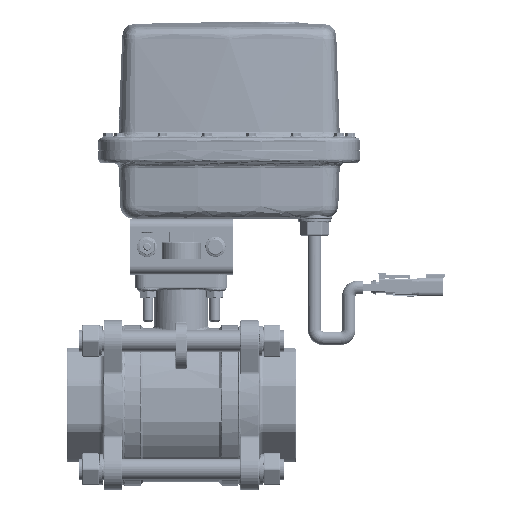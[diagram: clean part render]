
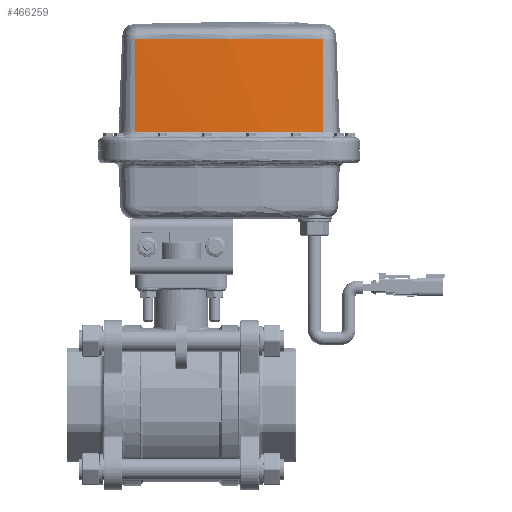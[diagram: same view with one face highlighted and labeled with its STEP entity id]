
A CAD part, top view. The second image highlights one B-rep face of the part: STEP entity #466259.
In plain terms, the highlighted conical face has half-angle 2 degrees and reference radius 507.539 mm.
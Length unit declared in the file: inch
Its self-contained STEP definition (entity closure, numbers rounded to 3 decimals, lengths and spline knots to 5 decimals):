
#941 = B_SPLINE_CURVE_WITH_KNOTS ( 'NONE', 3,
 ( #501819, #168830, #64350, #66744, #448373, #171252, #120156, #509007, #564817, #280590, #559967, #450806, #117756, #506622, #674093, #231873, #341384, #8321 ),
 .UNSPECIFIED., .F., .F.,
 ( 4, 2, 2, 1, 1, 1, 1, 1, 1, 2, 2, 4 ),
 ( 0., 0.25, 0.375, 0.4375, 0.46875, 0.48437, 0.49219, 0.49609, 0.49805, 0.49902, 0.5, 1. ),
 .UNSPECIFIED. ) ;
#8321 = CARTESIAN_POINT ( 'NONE',  ( -1.34376, 5.03864, 1.69672 ) ) ;
#29778 = B_SPLINE_CURVE_WITH_KNOTS ( 'NONE', 3,
 ( #179948, #464253, #388959, #235823 ),
 .UNSPECIFIED., .F., .F.,
 ( 4, 4 ),
 ( 0., 1. ),
 .UNSPECIFIED. ) ;
#34826 = EDGE_CURVE ( 'NONE', #562201, #137427, #666996, .T. ) ;
#34936 = CARTESIAN_POINT ( 'NONE',  ( 4.15686, 2.31977, 1.79076 ) ) ;
#47818 = DIRECTION ( 'NONE',  ( 0.138, 0., 0.99 ) ) ;
#49633 = CONICAL_SURFACE ( 'NONE', #312350, 19.98185, 0.035 ) ;
#49858 = CARTESIAN_POINT ( 'NONE',  ( 3.90338, 5.03769, 1.73024 ) ) ;
#64350 = CARTESIAN_POINT ( 'NONE',  ( 0.94605, 5.0481, 1.88272 ) ) ;
#66744 = CARTESIAN_POINT ( 'NONE',  ( 0.60216, 5.04414, 1.87103 ) ) ;
#93187 = CARTESIAN_POINT ( 'NONE',  ( 4.14376, 5.03864, 1.69672 ) ) ;
#108055 = CARTESIAN_POINT ( 'NONE',  ( 2.78115, 5.03947, 1.83886 ) ) ;
#112379 = ORIENTED_EDGE ( 'NONE', *, *, #703809, .F. ) ;
#117756 = CARTESIAN_POINT ( 'NONE',  ( 0.02838, 5.03952, 1.83952 ) ) ;
#120156 = CARTESIAN_POINT ( 'NONE',  ( 0.2275, 5.04081, 1.85238 ) ) ;
#137427 = VERTEX_POINT ( 'NONE', #652477 ) ;
#166358 = CARTESIAN_POINT ( 'NONE',  ( 3.669, 5.03729, 1.75842 ) ) ;
#168830 = CARTESIAN_POINT ( 'NONE',  ( 1.17383, 5.0514, 1.88646 ) ) ;
#171252 = CARTESIAN_POINT ( 'NONE',  ( 0.31414, 5.04149, 1.85722 ) ) ;
#179948 = CARTESIAN_POINT ( 'NONE',  ( -1.35686, 2.31977, 1.79076 ) ) ;
#212943 = CARTESIAN_POINT ( 'NONE',  ( -1.34376, 5.03864, 1.69672 ) ) ;
#231873 = CARTESIAN_POINT ( 'NONE',  ( -0.40627, 5.03703, 1.80947 ) ) ;
#235823 = CARTESIAN_POINT ( 'NONE',  ( -1.34376, 5.03864, 1.69672 ) ) ;
#251300 = CARTESIAN_POINT ( 'NONE',  ( 4.14376, 5.03864, 1.69672 ) ) ;
#268507 = CARTESIAN_POINT ( 'NONE',  ( 2.78704, 5.03943, 1.83845 ) ) ;
#270936 = CARTESIAN_POINT ( 'NONE',  ( 4.14376, 5.03864, 1.69672 ) ) ;
#271264 = DIRECTION ( 'NONE',  ( 0., 1., 0. ) ) ;
#273293 = CARTESIAN_POINT ( 'NONE',  ( 2.77694, 5.03949, 1.83915 ) ) ;
#275689 = CARTESIAN_POINT ( 'NONE',  ( 2.79885, 5.03937, 1.83762 ) ) ;
#278100 = CARTESIAN_POINT ( 'NONE',  ( 2.96522, 5.03854, 1.82535 ) ) ;
#280590 = CARTESIAN_POINT ( 'NONE',  ( 0.05013, 5.03965, 1.84101 ) ) ;
#288786 = EDGE_LOOP ( 'NONE', ( #112379, #643658, #455567, #468254, #605166 ) ) ;
#306808 = AXIS2_PLACEMENT_3D ( 'NONE', #599406, #271264, #47818 ) ;
#307578 = VERTEX_POINT ( 'NONE', #496028 ) ;
#312350 = AXIS2_PLACEMENT_3D ( 'NONE', #710292, #331293, #498986 ) ;
#324496 = CARTESIAN_POINT ( 'NONE',  ( 2.77616, 5.03949, 1.8392 ) ) ;
#326850 = CARTESIAN_POINT ( 'NONE',  ( 3.32676, 5.0375, 1.79372 ) ) ;
#331293 = DIRECTION ( 'NONE',  ( 0., -1., 0. ) ) ;
#334053 = CARTESIAN_POINT ( 'NONE',  ( 2.77862, 5.03948, 1.83903 ) ) ;
#341384 = CARTESIAN_POINT ( 'NONE',  ( -0.863, 5.03674, 1.76376 ) ) ;
#385173 = VERTEX_POINT ( 'NONE', #537070 ) ;
#387615 = CARTESIAN_POINT ( 'NONE',  ( 1.85235, 5.04744, 1.8866 ) ) ;
#388959 = CARTESIAN_POINT ( 'NONE',  ( -1.34813, 4.13235, 1.72806 ) ) ;
#412070 = CIRCLE ( 'NONE', #306808, 19.98185 ) ;
#423757 = CARTESIAN_POINT ( 'NONE',  ( 4.14813, 4.13235, 1.72806 ) ) ;
#426141 = CARTESIAN_POINT ( 'NONE',  ( 4.1525, 3.22606, 1.75941 ) ) ;
#441076 = CARTESIAN_POINT ( 'NONE',  ( 3.21424, 5.03771, 1.80432 ) ) ;
#445937 = CARTESIAN_POINT ( 'NONE',  ( 1.4, 5.05536, 1.88632 ) ) ;
#448373 = CARTESIAN_POINT ( 'NONE',  ( 0.48716, 5.04298, 1.86613 ) ) ;
#450664 = B_SPLINE_CURVE_WITH_KNOTS ( 'NONE', 3,
 ( #34936, #426141, #423757, #93187 ),
 .UNSPECIFIED., .F., .F.,
 ( 4, 4 ),
 ( 0., 1. ),
 .UNSPECIFIED. ) ;
#450806 = CARTESIAN_POINT ( 'NONE',  ( 0.03109, 5.03954, 1.8397 ) ) ;
#455567 = ORIENTED_EDGE ( 'NONE', *, *, #612278, .T. ) ;
#464253 = CARTESIAN_POINT ( 'NONE',  ( -1.3525, 3.22606, 1.75941 ) ) ;
#466259 = ADVANCED_FACE ( 'NONE', ( #580258 ), #49633, .T. ) ;
#468254 = ORIENTED_EDGE ( 'NONE', *, *, #34826, .T. ) ;
#494530 = CARTESIAN_POINT ( 'NONE',  ( 2.82248, 5.03924, 1.83595 ) ) ;
#496028 = CARTESIAN_POINT ( 'NONE',  ( 4.15686, 2.31977, 1.79076 ) ) ;
#498986 = DIRECTION ( 'NONE',  ( 1., 0., 0. ) ) ;
#501819 = CARTESIAN_POINT ( 'NONE',  ( 1.4, 5.05536, 1.88632 ) ) ;
#506622 = CARTESIAN_POINT ( 'NONE',  ( 0.02656, 5.03951, 1.83939 ) ) ;
#509007 = CARTESIAN_POINT ( 'NONE',  ( 0.1262, 5.04012, 1.84605 ) ) ;
#537070 = CARTESIAN_POINT ( 'NONE',  ( -1.35686, 2.31977, 1.79076 ) ) ;
#559967 = CARTESIAN_POINT ( 'NONE',  ( 0.03744, 5.03957, 1.84014 ) ) ;
#561965 = VERTEX_POINT ( 'NONE', #212943 ) ;
#561974 = EDGE_CURVE ( 'NONE', #385173, #307578, #412070, .T. ) ;
#562201 = VERTEX_POINT ( 'NONE', #251300 ) ;
#564817 = CARTESIAN_POINT ( 'NONE',  ( 0.07549, 5.0398, 1.84272 ) ) ;
#580258 = FACE_OUTER_BOUND ( 'NONE', #288786, .T. ) ;
#599406 = CARTESIAN_POINT ( 'NONE',  ( 1.4, 2.31977, -18. ) ) ;
#605166 = ORIENTED_EDGE ( 'NONE', *, *, #683922, .T. ) ;
#612278 = EDGE_CURVE ( 'NONE', #307578, #562201, #450664, .T. ) ;
#643658 = ORIENTED_EDGE ( 'NONE', *, *, #561974, .T. ) ;
#652477 = CARTESIAN_POINT ( 'NONE',  ( 1.4, 5.05536, 1.88632 ) ) ;
#657232 = CARTESIAN_POINT ( 'NONE',  ( 2.86989, 5.03899, 1.83253 ) ) ;
#662003 = CARTESIAN_POINT ( 'NONE',  ( 2.31115, 5.04216, 1.87134 ) ) ;
#666996 = B_SPLINE_CURVE_WITH_KNOTS ( 'NONE', 3,
 ( #270936, #49858, #166358, #326850, #441076, #715443, #278100, #657232, #494530, #275689, #268507, #108055, #334053, #273293, #324496, #662003, #387615, #445937 ),
 .UNSPECIFIED., .F., .F.,
 ( 4, 2, 2, 1, 1, 1, 1, 1, 1, 2, 2, 4 ),
 ( 0., 0.25, 0.375, 0.4375, 0.46875, 0.48438, 0.49219, 0.49609, 0.49805, 0.49902, 0.5, 1. ),
 .UNSPECIFIED. ) ;
#674093 = CARTESIAN_POINT ( 'NONE',  ( 0.02559, 5.0395, 1.83932 ) ) ;
#683922 = EDGE_CURVE ( 'NONE', #137427, #561965, #941, .T. ) ;
#703809 = EDGE_CURVE ( 'NONE', #385173, #561965, #29778, .T. ) ;
#710292 = CARTESIAN_POINT ( 'NONE',  ( 1.4, 2.31977, -18. ) ) ;
#715443 = CARTESIAN_POINT ( 'NONE',  ( 3.04784, 5.03823, 1.81861 ) ) ;
